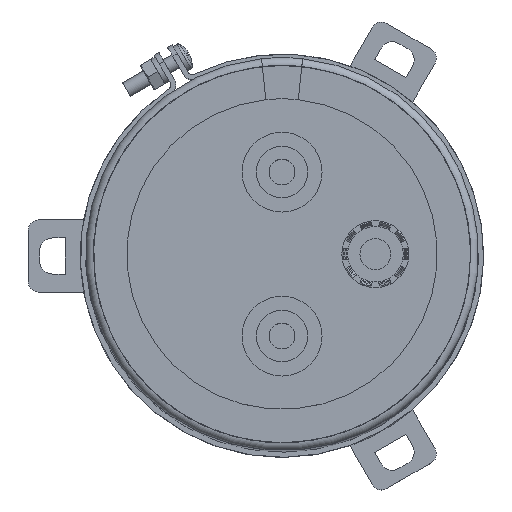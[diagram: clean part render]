
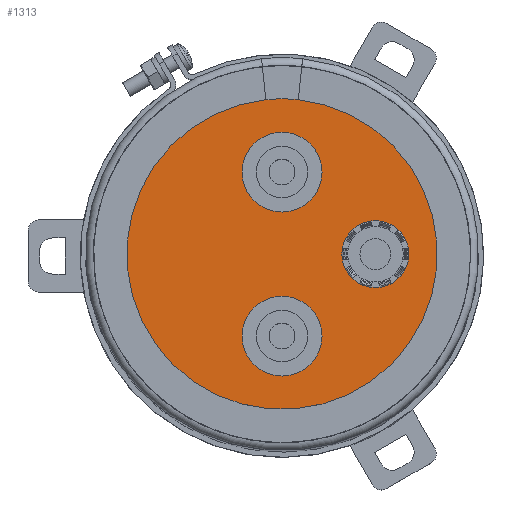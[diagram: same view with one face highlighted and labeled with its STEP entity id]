
A CAD part, top view. The second image highlights one B-rep face of the part: STEP entity #1313.
In plain terms, the highlighted planar face has unit normal (0, 0, 1).
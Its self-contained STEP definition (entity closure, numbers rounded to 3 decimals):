
#1175=PLANE('',#4651);
#1313=ADVANCED_FACE('',(#1610,#1611,#1612,#1613),#1175,.F.);
#1610=FACE_BOUND('',#1767,.T.);
#1611=FACE_BOUND('',#1768,.T.);
#1612=FACE_BOUND('',#1769,.T.);
#1613=FACE_BOUND('',#1770,.T.);
#1767=EDGE_LOOP('',(#2268));
#1768=EDGE_LOOP('',(#2269));
#1769=EDGE_LOOP('',(#2270));
#1770=EDGE_LOOP('',(#2271));
#2268=ORIENTED_EDGE('',*,*,#3762,.F.);
#2269=ORIENTED_EDGE('',*,*,#3763,.T.);
#2270=ORIENTED_EDGE('',*,*,#3764,.F.);
#2271=ORIENTED_EDGE('',*,*,#3765,.F.);
#3316=VERTEX_POINT('',#6724);
#3317=VERTEX_POINT('',#6726);
#3318=VERTEX_POINT('',#6728);
#3319=VERTEX_POINT('',#6730);
#3762=EDGE_CURVE('',#3316,#3316,#4307,.T.);
#3763=EDGE_CURVE('',#3317,#3317,#4308,.T.);
#3764=EDGE_CURVE('',#3318,#3318,#4309,.T.);
#3765=EDGE_CURVE('',#3319,#3319,#4310,.T.);
#4307=CIRCLE('',#4647,6.5);
#4308=CIRCLE('',#4648,7.75);
#4309=CIRCLE('',#4649,7.75);
#4310=CIRCLE('',#4650,36.6);
#4647=AXIS2_PLACEMENT_3D('',#6723,#5370,#5371);
#4648=AXIS2_PLACEMENT_3D('',#6725,#5372,#5373);
#4649=AXIS2_PLACEMENT_3D('',#6727,#5374,#5375);
#4650=AXIS2_PLACEMENT_3D('',#6729,#5376,#5377);
#4651=AXIS2_PLACEMENT_3D('',#6731,#5378,#5379);
#5370=DIRECTION('',(0.,0.,1.));
#5371=DIRECTION('',(0.,-1.,0.));
#5372=DIRECTION('',(0.,0.,-1.));
#5373=DIRECTION('',(0.,-1.,0.));
#5374=DIRECTION('',(0.,0.,1.));
#5375=DIRECTION('',(0.,-1.,0.));
#5376=DIRECTION('',(0.,0.,-1.));
#5377=DIRECTION('',(0.,1.,0.));
#5378=DIRECTION('',(0.,0.,-1.));
#5379=DIRECTION('',(0.,1.,0.));
#6723=CARTESIAN_POINT('',(18.1,0.,209.4));
#6724=CARTESIAN_POINT('',(18.1,-6.5,209.4));
#6725=CARTESIAN_POINT('',(0.,15.9,209.4));
#6726=CARTESIAN_POINT('',(0.,8.15,209.4));
#6727=CARTESIAN_POINT('',(0.,-15.9,209.4));
#6728=CARTESIAN_POINT('',(0.,-23.65,209.4));
#6729=CARTESIAN_POINT('',(0.,0.,209.4));
#6730=CARTESIAN_POINT('',(0.,36.6,209.4));
#6731=CARTESIAN_POINT('',(0.,0.,209.4));
